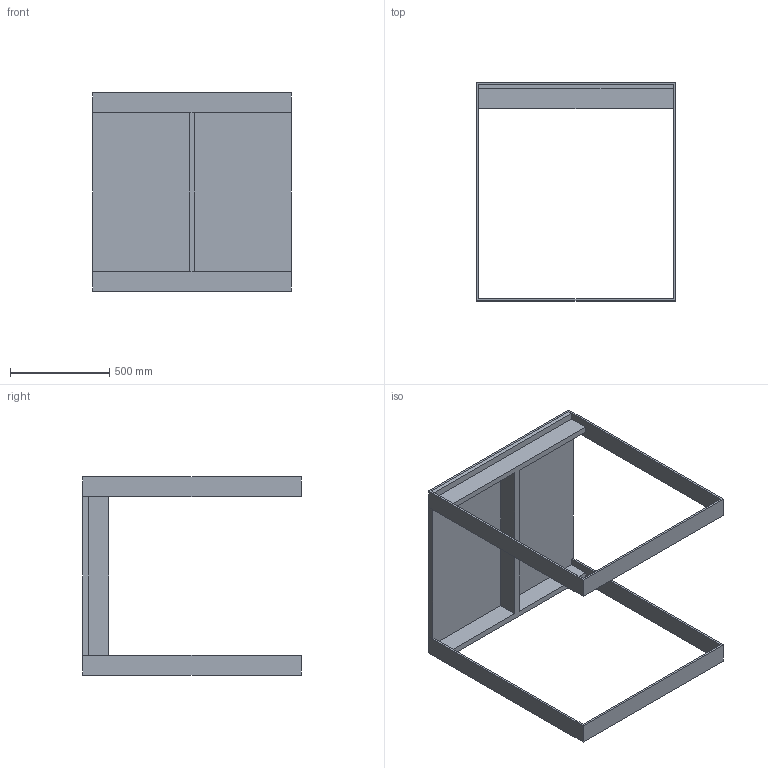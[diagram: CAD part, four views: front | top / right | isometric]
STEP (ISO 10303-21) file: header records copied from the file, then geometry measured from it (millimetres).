
FILE_DESCRIPTION (( 'STEP AP203' ), '1' );
FILE_NAME ('Haag 1000x1000x1100.STEP', '2019-04-02T17:57:58', ( '' ), ( '' ), 'SwSTEP 2.0', 'SolidWorks 2019', '' );
FILE_SCHEMA (( 'CONFIG_CONTROL_DESIGN' ));
Length unit declared in the file: millimetre
Products named in the file (1): Haag 1000x1000x1100
Bounding box: 1000 x 1100 x 1000 mm (x, y, z)
Volume: 44728438 mm3; surface area: 4680043.8 mm2
Topology: 4 solids, 4 shells, 48 faces, 120 edges, 80 vertices
Faces by surface type: plane 48
Entity records: 1483 total; most frequent: CARTESIAN_POINT 249, ORIENTED_EDGE 240, DIRECTION 218, EDGE_CURVE 120, VECTOR 120, LINE 120, VERTEX_POINT 80, EDGE_LOOP 52
